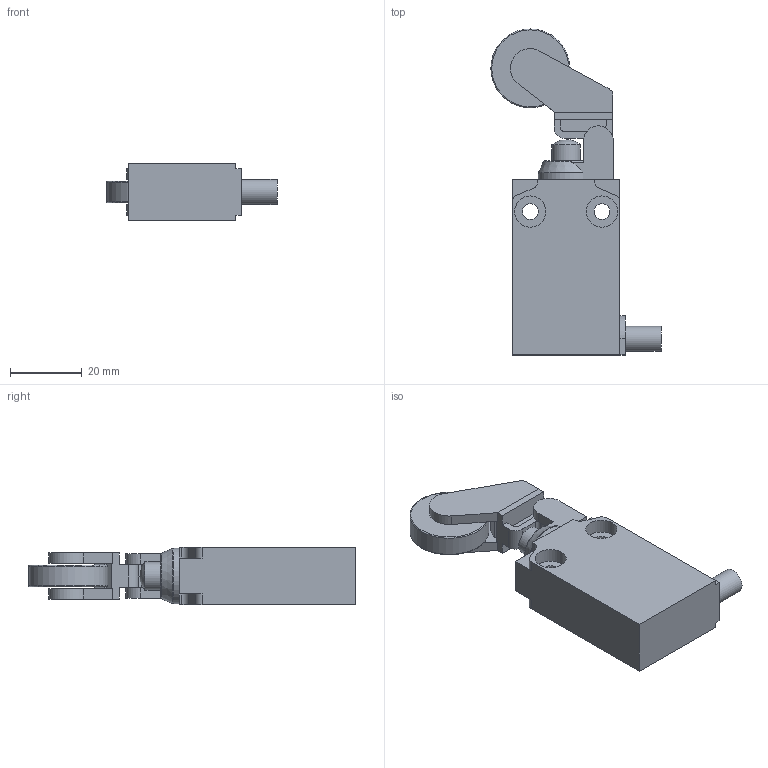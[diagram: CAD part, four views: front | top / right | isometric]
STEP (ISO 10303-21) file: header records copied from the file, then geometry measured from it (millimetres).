
FILE_DESCRIPTION(/* description */ (''),/* implementation_level */ '2;1');
FILE_NAME(/* name */ 'C:\Users\servizio.tecnico\Desktop\CADENAS\3D\EP1_STP\STP_EP1_G38U.stp',/* time_stamp */ '2017-09-01T08:22:22+02:00',/* author */ ('servizio.tecnico'),/* organization */ (''),/* preprocessor_version */ 'ST-DEVELOPER v16.1',/* originating_system */ 'Autodesk Inventor 2016',/* authorisation */ '');
FILE_SCHEMA (('AUTOMOTIVE_DESIGN { 1 0 10303 214 3 1 1 }'));
Length unit declared in the file: millimetre
Products named in the file (3): Product; EP1G38; BASE ASSI 
Assembly tree (2 placements, depth 3):
  BASE ASSI 
    EP1G38
      Product
Bounding box: 47.5 x 90.95 x 16 mm (x, y, z)
Volume: 29868.3 mm3; surface area: 12676.8 mm2
Topology: 6 solids, 6 shells, 203 faces, 551 edges, 367 vertices
Faces by surface type: plane 153, cylinder 44, torus 4, sphere 1, cone 1
Full cylindrical faces by diameter (mm): 4.4 x2, 7 x1, 7.95 x1, 8.05 x1, 8.7 x4, 22 x1
Entity records: 6569 total; most frequent: CARTESIAN_POINT 1162, ORIENTED_EDGE 1070, DIRECTION 1036, EDGE_CURVE 535, LINE 434, VECTOR 434, VERTEX_POINT 364, AXIS2_PLACEMENT_3D 301
